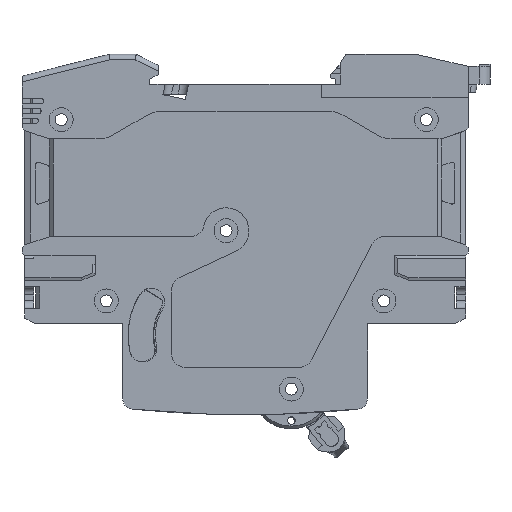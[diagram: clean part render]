
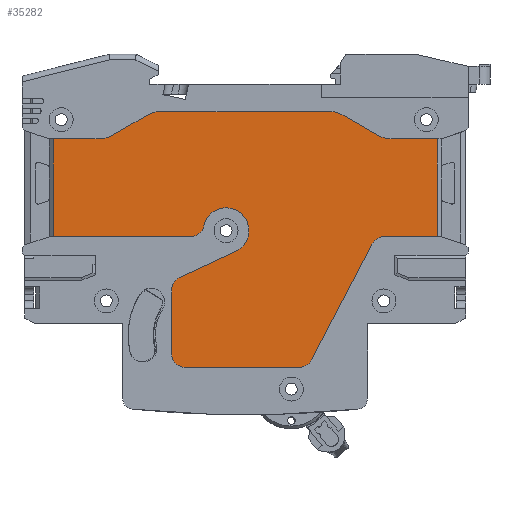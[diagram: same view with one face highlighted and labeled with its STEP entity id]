
A CAD part, front view. The second image highlights one B-rep face of the part: STEP entity #35282.
In plain terms, the highlighted planar face has unit normal (0, 1, 0).
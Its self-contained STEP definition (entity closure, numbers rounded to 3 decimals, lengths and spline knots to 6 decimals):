
#13694=DIRECTION('',(1.,0.,0.));
#13695=VECTOR('',#13694,0.00846);
#13696=CARTESIAN_POINT('',(-0.0353,0.0003,0.034));
#13697=LINE('',#13696,#13695);
#13701=DIRECTION('',(0.,0.,1.));
#13702=VECTOR('',#13701,0.018);
#13703=CARTESIAN_POINT('',(-0.0353,0.0003,0.016));
#13704=LINE('',#13703,#13702);
#13722=DIRECTION('',(-1.,0.,0.));
#13723=VECTOR('',#13722,0.025248);
#13724=CARTESIAN_POINT('',(-0.010052,0.0003,0.016));
#13725=LINE('',#13724,#13723);
#13750=CARTESIAN_POINT('',(-0.010052,0.0003,0.0185));
#13751=DIRECTION('',(0.,-1.,0.));
#13752=DIRECTION('',(0.,0.,-1.));
#13753=AXIS2_PLACEMENT_3D('',#13750,#13751,#13752);
#13758=CARTESIAN_POINT('',(-0.0035,0.0003,0.0171));
#13759=DIRECTION('',(0.,1.,0.));
#13760=DIRECTION('',(-0.978,0.,0.209));
#13761=AXIS2_PLACEMENT_3D('',#13758,#13759,#13760);
#13766=CARTESIAN_POINT('',(-0.0035,0.0003,0.0171));
#13767=DIRECTION('',(0.,1.,0.));
#13768=DIRECTION('',(1.,0.,0.));
#13769=AXIS2_PLACEMENT_3D('',#13766,#13767,#13768);
#13774=DIRECTION('',(-0.906,0.,-0.423));
#13775=VECTOR('',#13774,0.011398);
#13776=CARTESIAN_POINT('',(-0.001725,0.0003,0.013294));
#13777=LINE('',#13776,#13775);
#13781=CARTESIAN_POINT('',(-0.011,0.0003,0.00621));
#13782=DIRECTION('',(0.,-1.,0.));
#13783=DIRECTION('',(-0.423,0.,0.906));
#13784=AXIS2_PLACEMENT_3D('',#13781,#13782,#13783);
#13789=CARTESIAN_POINT('',(-0.011,0.0003,-0.0055));
#13790=DIRECTION('',(0.,-1.,0.));
#13791=DIRECTION('',(-1.,0.,0.));
#13792=AXIS2_PLACEMENT_3D('',#13789,#13790,#13791);
#13797=CARTESIAN_POINT('',(0.009983,0.0003,-0.0055));
#13798=DIRECTION('',(0.,-1.,0.));
#13799=DIRECTION('',(0.,0.,-1.));
#13800=AXIS2_PLACEMENT_3D('',#13797,#13798,#13799);
#13805=DIRECTION('',(0.462,0.,0.887));
#13806=VECTOR('',#13805,0.024027);
#13807=CARTESIAN_POINT('',(0.012201,0.0003,-0.006655));
#13808=LINE('',#13807,#13806);
#13812=CARTESIAN_POINT('',(0.025517,0.0003,0.0135));
#13813=DIRECTION('',(0.,1.,0.));
#13814=DIRECTION('',(-0.887,0.,0.462));
#13815=AXIS2_PLACEMENT_3D('',#13812,#13813,#13814);
#13820=CARTESIAN_POINT('',(0.02684,0.0003,0.039));
#13821=DIRECTION('',(0.,1.,0.));
#13822=DIRECTION('',(0.,0.,-1.));
#13823=AXIS2_PLACEMENT_3D('',#13820,#13821,#13822);
#13828=DIRECTION('',(-0.866,0.,0.5));
#13829=VECTOR('',#13828,0.007321);
#13830=CARTESIAN_POINT('',(0.02434,0.0003,0.03467));
#13831=LINE('',#13830,#13829);
#13835=CARTESIAN_POINT('',(0.0155,0.0003,0.034));
#13836=DIRECTION('',(0.,-1.,0.));
#13837=DIRECTION('',(0.5,0.,0.866));
#13838=AXIS2_PLACEMENT_3D('',#13835,#13836,#13837);
#13843=CARTESIAN_POINT('',(-0.0155,0.0003,0.034));
#13844=DIRECTION('',(0.,-1.,0.));
#13845=DIRECTION('',(0.,0.,1.));
#13846=AXIS2_PLACEMENT_3D('',#13843,#13844,#13845);
#13851=DIRECTION('',(-0.866,0.,-0.5));
#13852=VECTOR('',#13851,0.007321);
#13853=CARTESIAN_POINT('',(-0.018,0.0003,0.03833));
#13854=LINE('',#13853,#13852);
#13858=CARTESIAN_POINT('',(-0.02684,0.0003,0.039));
#13859=DIRECTION('',(0.,1.,0.));
#13860=DIRECTION('',(0.5,0.,-0.866));
#13861=AXIS2_PLACEMENT_3D('',#13858,#13859,#13860);
#13901=DIRECTION('',(0.,0.,1.));
#13902=VECTOR('',#13901,0.01171);
#13903=CARTESIAN_POINT('',(-0.0135,0.0003,-0.0055));
#13904=LINE('',#13903,#13902);
#13936=DIRECTION('',(-1.,0.,0.));
#13937=VECTOR('',#13936,0.020983);
#13938=CARTESIAN_POINT('',(0.009983,0.0003,-0.008));
#13939=LINE('',#13938,#13937);
#13985=DIRECTION('',(-1.,0.,0.));
#13986=VECTOR('',#13985,0.009783);
#13987=CARTESIAN_POINT('',(0.0353,0.0003,0.016));
#13988=LINE('',#13987,#13986);
#14027=DIRECTION('',(1.,0.,0.));
#14028=VECTOR('',#14027,0.00846);
#14029=CARTESIAN_POINT('',(0.02684,0.0003,0.034));
#14030=LINE('',#14029,#14028);
#14048=DIRECTION('',(0.,0.,-1.));
#14049=VECTOR('',#14048,0.018);
#14050=CARTESIAN_POINT('',(0.0353,0.0003,0.034));
#14051=LINE('',#14050,#14049);
#14301=DIRECTION('',(1.,0.,0.));
#14302=VECTOR('',#14301,0.031);
#14303=CARTESIAN_POINT('',(-0.0155,0.0003,0.039));
#14304=LINE('',#14303,#14302);
#20014=CARTESIAN_POINT('',(-0.0353,0.0003,0.034));
#20015=VERTEX_POINT('',#20014);
#20016=CARTESIAN_POINT('',(-0.02684,0.0003,0.034));
#20017=VERTEX_POINT('',#20016);
#20018=CARTESIAN_POINT('',(-0.0353,0.0003,0.016));
#20020=VERTEX_POINT('',#20018);
#20026=CARTESIAN_POINT('',(-0.010052,0.0003,0.016));
#20027=VERTEX_POINT('',#20026);
#20028=CARTESIAN_POINT('',(-0.007607,0.0003,0.017978));
#20029=VERTEX_POINT('',#20028);
#20030=CARTESIAN_POINT('',(0.0007,0.0003,0.0171));
#20031=CARTESIAN_POINT('',(-0.001725,0.0003,0.013294));
#20032=VERTEX_POINT('',#20030);
#20033=VERTEX_POINT('',#20031);
#20034=CARTESIAN_POINT('',(-0.012055,0.0003,0.008476));
#20035=VERTEX_POINT('',#20034);
#20036=CARTESIAN_POINT('',(-0.0135,0.0003,0.00621));
#20037=VERTEX_POINT('',#20036);
#20038=CARTESIAN_POINT('',(-0.0135,0.0003,-0.0055));
#20039=VERTEX_POINT('',#20038);
#20040=CARTESIAN_POINT('',(-0.011,0.0003,-0.008));
#20041=VERTEX_POINT('',#20040);
#20042=CARTESIAN_POINT('',(0.009983,0.0003,-0.008));
#20043=VERTEX_POINT('',#20042);
#20044=CARTESIAN_POINT('',(0.012201,0.0003,-0.006655));
#20045=VERTEX_POINT('',#20044);
#20046=CARTESIAN_POINT('',(0.023299,0.0003,0.014655));
#20047=VERTEX_POINT('',#20046);
#20048=CARTESIAN_POINT('',(0.025517,0.0003,0.016));
#20049=VERTEX_POINT('',#20048);
#20050=CARTESIAN_POINT('',(0.0353,0.0003,0.016));
#20051=VERTEX_POINT('',#20050);
#20052=CARTESIAN_POINT('',(0.0353,0.0003,0.034));
#20053=VERTEX_POINT('',#20052);
#20054=CARTESIAN_POINT('',(0.02684,0.0003,0.034));
#20055=VERTEX_POINT('',#20054);
#20056=CARTESIAN_POINT('',(0.02434,0.0003,0.03467));
#20057=VERTEX_POINT('',#20056);
#20058=CARTESIAN_POINT('',(0.018,0.0003,0.03833));
#20059=VERTEX_POINT('',#20058);
#20060=CARTESIAN_POINT('',(0.0155,0.0003,0.039));
#20061=VERTEX_POINT('',#20060);
#20062=CARTESIAN_POINT('',(-0.0155,0.0003,0.039));
#20063=VERTEX_POINT('',#20062);
#20064=CARTESIAN_POINT('',(-0.018,0.0003,0.03833));
#20065=VERTEX_POINT('',#20064);
#20066=CARTESIAN_POINT('',(-0.02434,0.0003,0.03467));
#20067=VERTEX_POINT('',#20066);
#35230=CARTESIAN_POINT('',(0.,0.0003,0.0155));
#35231=DIRECTION('',(0.,1.,0.));
#35232=DIRECTION('',(-1.,0.,0.));
#35233=AXIS2_PLACEMENT_3D('',#35230,#35231,#35232);
#35234=PLANE('',#35233);
#35235=ORIENTED_EDGE('',*,*,#35188,.F.);
#35236=ORIENTED_EDGE('',*,*,#35212,.F.);
#35238=ORIENTED_EDGE('',*,*,#35237,.T.);
#35240=ORIENTED_EDGE('',*,*,#35239,.T.);
#35242=ORIENTED_EDGE('',*,*,#35241,.T.);
#35244=ORIENTED_EDGE('',*,*,#35243,.T.);
#35246=ORIENTED_EDGE('',*,*,#35245,.T.);
#35248=ORIENTED_EDGE('',*,*,#35247,.F.);
#35250=ORIENTED_EDGE('',*,*,#35249,.T.);
#35252=ORIENTED_EDGE('',*,*,#35251,.F.);
#35254=ORIENTED_EDGE('',*,*,#35253,.T.);
#35256=ORIENTED_EDGE('',*,*,#35255,.T.);
#35258=ORIENTED_EDGE('',*,*,#35257,.T.);
#35260=ORIENTED_EDGE('',*,*,#35259,.F.);
#35262=ORIENTED_EDGE('',*,*,#35261,.F.);
#35264=ORIENTED_EDGE('',*,*,#35263,.F.);
#35266=ORIENTED_EDGE('',*,*,#35265,.T.);
#35268=ORIENTED_EDGE('',*,*,#35267,.T.);
#35270=ORIENTED_EDGE('',*,*,#35269,.T.);
#35272=ORIENTED_EDGE('',*,*,#35271,.F.);
#35274=ORIENTED_EDGE('',*,*,#35273,.T.);
#35276=ORIENTED_EDGE('',*,*,#35275,.T.);
#35278=ORIENTED_EDGE('',*,*,#35277,.T.);
#35279=ORIENTED_EDGE('',*,*,#35167,.F.);
#35280=EDGE_LOOP('',(#35235,#35236,#35238,#35240,#35242,#35244,#35246,#35248,
#35250,#35252,#35254,#35256,#35258,#35260,#35262,#35264,#35266,#35268,#35270,
#35272,#35274,#35276,#35278,#35279));
#35281=FACE_OUTER_BOUND('',#35280,.F.);
#35282=ADVANCED_FACE('',(#35281),#35234,.T.);
#13754=CIRCLE('',#13753,0.0025);
#13762=CIRCLE('',#13761,0.0042);
#13770=CIRCLE('',#13769,0.0042);
#13785=CIRCLE('',#13784,0.0025);
#13793=CIRCLE('',#13792,0.0025);
#13801=CIRCLE('',#13800,0.0025);
#13816=CIRCLE('',#13815,0.0025);
#13824=CIRCLE('',#13823,0.005);
#13839=CIRCLE('',#13838,0.005);
#13847=CIRCLE('',#13846,0.005);
#13862=CIRCLE('',#13861,0.005);
#35167=EDGE_CURVE('',#20015,#20017,#13697,.T.);
#35188=EDGE_CURVE('',#20020,#20015,#13704,.T.);
#35212=EDGE_CURVE('',#20027,#20020,#13725,.T.);
#35237=EDGE_CURVE('',#20027,#20029,#13754,.T.);
#35239=EDGE_CURVE('',#20029,#20032,#13762,.T.);
#35241=EDGE_CURVE('',#20032,#20033,#13770,.T.);
#35243=EDGE_CURVE('',#20033,#20035,#13777,.T.);
#35245=EDGE_CURVE('',#20035,#20037,#13785,.T.);
#35247=EDGE_CURVE('',#20039,#20037,#13904,.T.);
#35249=EDGE_CURVE('',#20039,#20041,#13793,.T.);
#35251=EDGE_CURVE('',#20043,#20041,#13939,.T.);
#35253=EDGE_CURVE('',#20043,#20045,#13801,.T.);
#35255=EDGE_CURVE('',#20045,#20047,#13808,.T.);
#35257=EDGE_CURVE('',#20047,#20049,#13816,.T.);
#35259=EDGE_CURVE('',#20051,#20049,#13988,.T.);
#35261=EDGE_CURVE('',#20053,#20051,#14051,.T.);
#35263=EDGE_CURVE('',#20055,#20053,#14030,.T.);
#35265=EDGE_CURVE('',#20055,#20057,#13824,.T.);
#35267=EDGE_CURVE('',#20057,#20059,#13831,.T.);
#35269=EDGE_CURVE('',#20059,#20061,#13839,.T.);
#35271=EDGE_CURVE('',#20063,#20061,#14304,.T.);
#35273=EDGE_CURVE('',#20063,#20065,#13847,.T.);
#35275=EDGE_CURVE('',#20065,#20067,#13854,.T.);
#35277=EDGE_CURVE('',#20067,#20017,#13862,.T.);
